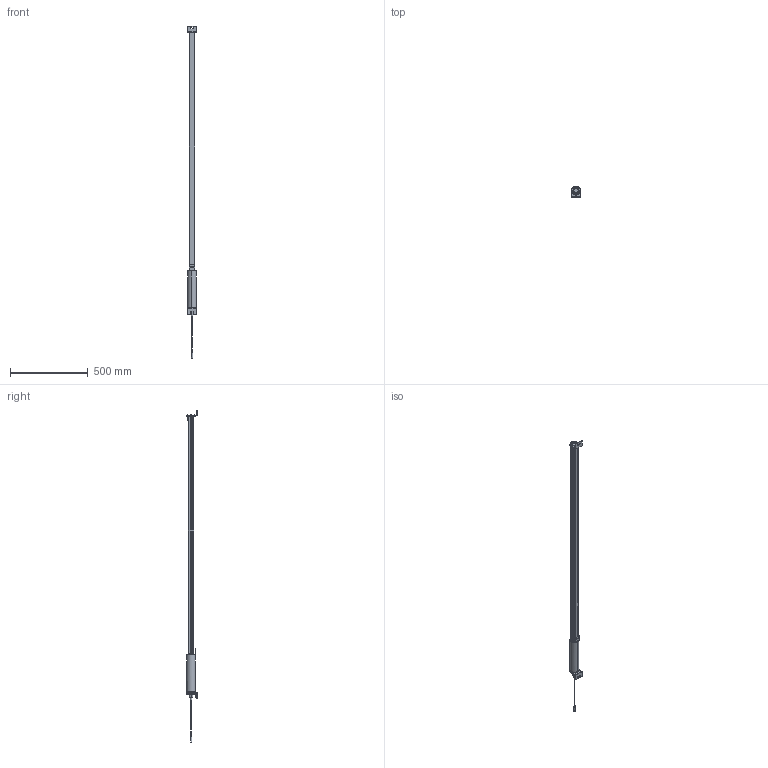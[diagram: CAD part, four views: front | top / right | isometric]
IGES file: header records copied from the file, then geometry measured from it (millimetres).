
Global section: file name: C:\ACADFILES\SS_PYLONS\CUSTOMER_FILES\SS-68-PYLON_3D_SMB.igs; native system: AutoCAD-18.2s (LMS Tech) (Microsoft Windows NT Version 6.1 (x86)); preprocessor: Autodesk IGES Translator Mechanical Desktop 2011 (Feb 18 2011) from Autodesk, Inc.; date: 20140326.141542; units: inch
Bounding box: 57.29 x 69.85 x 2133.97 mm (x, y, z)
Surface area: 820269.7 mm2 (no closed solid volume)
Topology: 0 solids, 0 shells, 1800 faces, 9329 edges, 9504 vertices
Faces by surface type: bspline 1800
